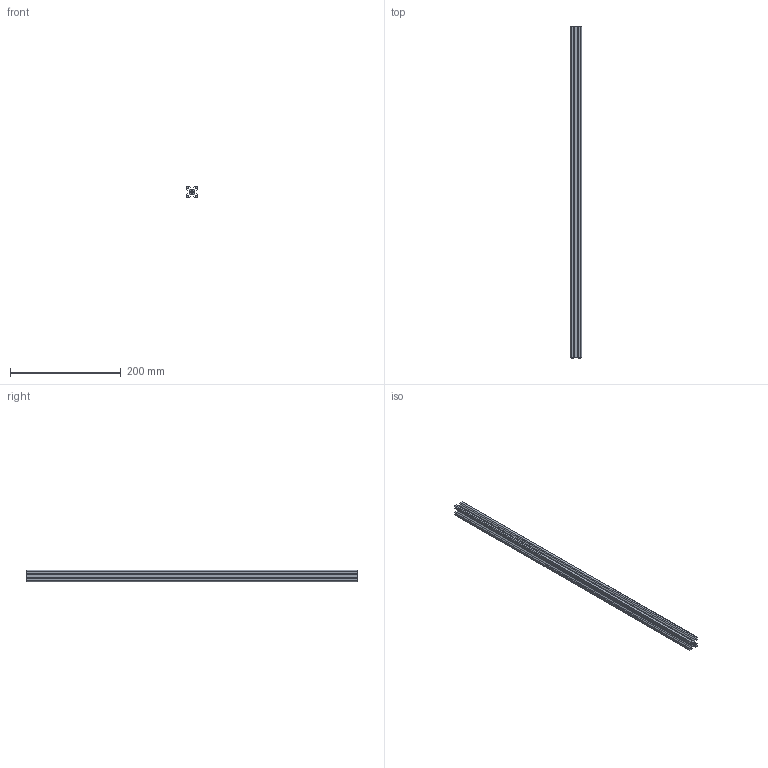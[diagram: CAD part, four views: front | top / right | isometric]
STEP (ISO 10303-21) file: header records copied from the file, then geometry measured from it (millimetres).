
FILE_DESCRIPTION (( 'STEP AP203' ), '1' );
FILE_NAME ('600mmAlExt.step', '2026-07-10T19:43:30', ( '' ), ( '' ), 'SwSTEP 2.0', 'SolidWorks 2024', '' );
FILE_SCHEMA (( 'CONFIG_CONTROL_DESIGN' ));
Length unit declared in the file: millimetre
Products named in the file (1): 600mmAlExt
Bounding box: 20 x 600 x 20 mm (x, y, z)
Volume: 98219.8 mm3; surface area: 95839.2 mm2
Topology: 1 solids, 1 shells, 52 faces, 150 edges, 100 vertices
Faces by surface type: plane 46, cylinder 6
Entity records: 1767 total; most frequent: CARTESIAN_POINT 303, ORIENTED_EDGE 300, DIRECTION 268, EDGE_CURVE 150, LINE 138, VECTOR 138, VERTEX_POINT 100, AXIS2_PLACEMENT_3D 65
